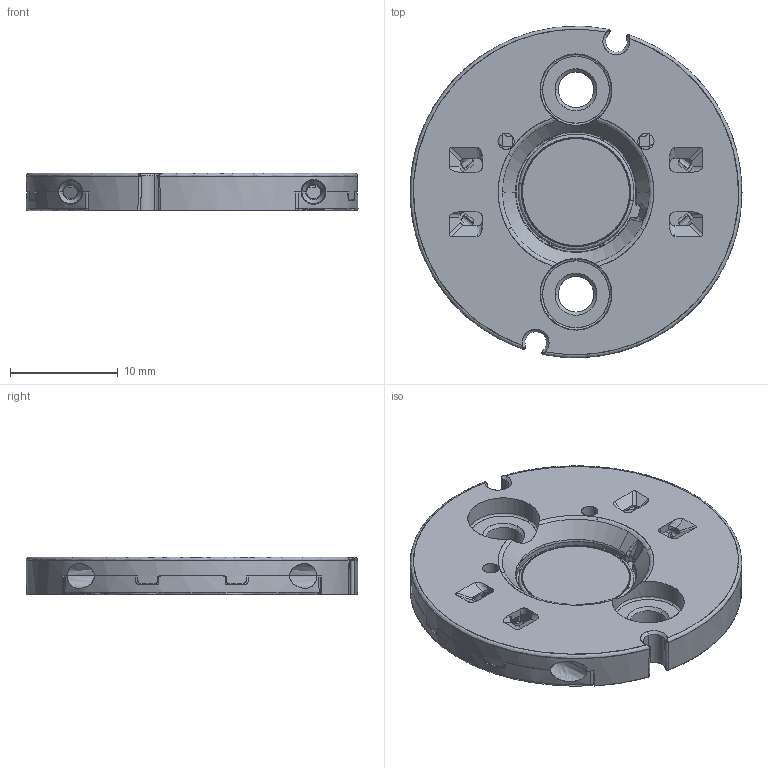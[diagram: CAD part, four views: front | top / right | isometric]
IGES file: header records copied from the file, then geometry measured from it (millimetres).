
Start section: SolidWorks IGES file using analytic representation for surfaces
Global section: file name: D:\Users\5160206\Desktop\3D document\GEN8\Assembly\Vero10\Vero SE\Vero10 SE.IGS; native system: SolidWorks 2018; preprocessor: SolidWorks 2018; author: 5160206; date: 200904.094004; units: millimetre
Bounding box: 30.85 x 30.81 x 3.5 mm (x, y, z)
Surface area: 4264 mm2 (no closed solid volume)
Topology: 0 solids, 0 shells, 2041 faces, 18386 edges, 18385 vertices
Faces by surface type: bspline 2004, revolution 37
